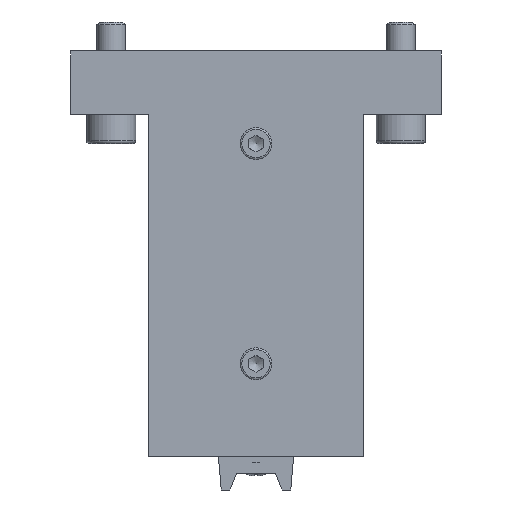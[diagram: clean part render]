
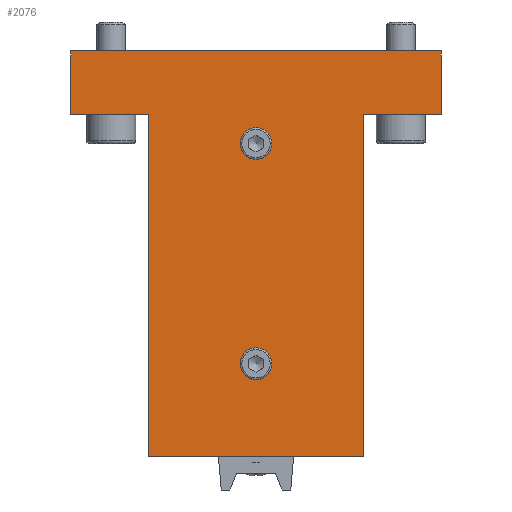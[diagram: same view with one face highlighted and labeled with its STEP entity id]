
A CAD part, left-side view. The second image highlights one B-rep face of the part: STEP entity #2076.
In plain terms, the highlighted planar face has unit normal (-1, 0, 0) as drawn and (0, -1, 0) by its records, which use the part's own axes.
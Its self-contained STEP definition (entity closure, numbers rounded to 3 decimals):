
#120=FACE_BOUND('',#406,.T.);
#121=FACE_BOUND('',#407,.T.);
#156=CIRCLE('',#2306,1.311);
#157=CIRCLE('',#2307,1.311);
#160=CIRCLE('',#2312,1.311);
#161=CIRCLE('',#2313,1.311);
#290=FACE_OUTER_BOUND('',#405,.T.);
#405=EDGE_LOOP('',(#1475,#1476,#1477,#1478,#1479,#1480,#1481,#1482));
#406=EDGE_LOOP('',(#1483,#1484));
#407=EDGE_LOOP('',(#1485,#1486));
#523=LINE('',#3170,#692);
#536=LINE('',#3247,#705);
#539=LINE('',#3252,#708);
#540=LINE('',#3255,#709);
#543=LINE('',#3260,#712);
#544=LINE('',#3262,#713);
#545=LINE('',#3265,#714);
#547=LINE('',#3268,#716);
#692=VECTOR('',#2540,10.);
#705=VECTOR('',#2623,10.);
#708=VECTOR('',#2628,10.);
#709=VECTOR('',#2631,10.);
#712=VECTOR('',#2636,10.);
#713=VECTOR('',#2639,10.);
#714=VECTOR('',#2642,10.);
#716=VECTOR('',#2646,10.);
#859=VERTEX_POINT('',#3167);
#860=VERTEX_POINT('',#3169);
#869=VERTEX_POINT('',#3193);
#870=VERTEX_POINT('',#3194);
#874=VERTEX_POINT('',#3206);
#875=VERTEX_POINT('',#3207);
#888=VERTEX_POINT('',#3244);
#889=VERTEX_POINT('',#3246);
#890=VERTEX_POINT('',#3250);
#891=VERTEX_POINT('',#3254);
#892=VERTEX_POINT('',#3258);
#893=VERTEX_POINT('',#3264);
#1076=EDGE_CURVE('',#860,#859,#523,.T.);
#1087=EDGE_CURVE('',#869,#870,#156,.T.);
#1088=EDGE_CURVE('',#870,#869,#157,.T.);
#1093=EDGE_CURVE('',#874,#875,#160,.T.);
#1094=EDGE_CURVE('',#875,#874,#161,.T.);
#1113=EDGE_CURVE('',#889,#888,#536,.T.);
#1116=EDGE_CURVE('',#888,#890,#539,.T.);
#1117=EDGE_CURVE('',#891,#860,#540,.T.);
#1120=EDGE_CURVE('',#892,#890,#543,.T.);
#1121=EDGE_CURVE('',#859,#889,#544,.T.);
#1122=EDGE_CURVE('',#893,#891,#545,.T.);
#1124=EDGE_CURVE('',#893,#892,#547,.T.);
#1475=ORIENTED_EDGE('',*,*,#1116,.T.);
#1476=ORIENTED_EDGE('',*,*,#1120,.F.);
#1477=ORIENTED_EDGE('',*,*,#1124,.F.);
#1478=ORIENTED_EDGE('',*,*,#1122,.T.);
#1479=ORIENTED_EDGE('',*,*,#1117,.T.);
#1480=ORIENTED_EDGE('',*,*,#1076,.T.);
#1481=ORIENTED_EDGE('',*,*,#1121,.T.);
#1482=ORIENTED_EDGE('',*,*,#1113,.T.);
#1483=ORIENTED_EDGE('',*,*,#1087,.T.);
#1484=ORIENTED_EDGE('',*,*,#1088,.T.);
#1485=ORIENTED_EDGE('',*,*,#1093,.T.);
#1486=ORIENTED_EDGE('',*,*,#1094,.T.);
#2000=PLANE('',#2336);
#2076=ADVANCED_FACE('',(#290,#120,#121),#2000,.T.);
#2306=AXIS2_PLACEMENT_3D('',#3195,#2565,#2566);
#2307=AXIS2_PLACEMENT_3D('',#3196,#2567,#2568);
#2312=AXIS2_PLACEMENT_3D('',#3208,#2579,#2580);
#2313=AXIS2_PLACEMENT_3D('',#3209,#2581,#2582);
#2336=AXIS2_PLACEMENT_3D('',#3267,#2644,#2645);
#2540=DIRECTION('',(0.,0.,1.));
#2565=DIRECTION('center_axis',(0.,1.,0.));
#2566=DIRECTION('ref_axis',(1.,0.,0.));
#2567=DIRECTION('center_axis',(0.,1.,0.));
#2568=DIRECTION('ref_axis',(1.,0.,0.));
#2579=DIRECTION('center_axis',(0.,1.,0.));
#2580=DIRECTION('ref_axis',(1.,0.,0.));
#2581=DIRECTION('center_axis',(0.,1.,0.));
#2582=DIRECTION('ref_axis',(1.,0.,0.));
#2623=DIRECTION('',(0.,0.,-1.));
#2628=DIRECTION('',(-1.,0.,0.));
#2631=DIRECTION('',(-1.,0.,0.));
#2636=DIRECTION('',(0.,0.,1.));
#2639=DIRECTION('',(-1.,0.,0.));
#2642=DIRECTION('',(0.,0.,1.));
#2644=DIRECTION('center_axis',(0.,-1.,0.));
#2645=DIRECTION('ref_axis',(0.,0.,-1.));
#2646=DIRECTION('',(-1.,0.,0.));
#3167=CARTESIAN_POINT('',(-13.5,0.,70.));
#3169=CARTESIAN_POINT('',(-13.5,0.,11.));
#3170=CARTESIAN_POINT('',(-13.5,0.,35.));
#3193=CARTESIAN_POINT('',(-30.69,0.,16.));
#3194=CARTESIAN_POINT('',(-33.311,0.,16.));
#3195=CARTESIAN_POINT('Origin',(-32.,0.,16.));
#3196=CARTESIAN_POINT('Origin',(-32.,0.,16.));
#3206=CARTESIAN_POINT('',(-30.69,0.,54.));
#3207=CARTESIAN_POINT('',(-33.311,0.,54.));
#3208=CARTESIAN_POINT('Origin',(-32.,0.,54.));
#3209=CARTESIAN_POINT('Origin',(-32.,0.,54.));
#3244=CARTESIAN_POINT('',(-50.5,0.,11.));
#3246=CARTESIAN_POINT('',(-50.5,0.,70.));
#3247=CARTESIAN_POINT('',(-50.5,0.,5.5));
#3250=CARTESIAN_POINT('',(-64.,0.,11.));
#3252=CARTESIAN_POINT('',(-32.,0.,11.));
#3254=CARTESIAN_POINT('',(0.,0.,11.));
#3255=CARTESIAN_POINT('',(-6.75,0.,11.));
#3258=CARTESIAN_POINT('',(-64.,0.,0.));
#3260=CARTESIAN_POINT('',(-64.,0.,0.));
#3262=CARTESIAN_POINT('',(0.,0.,70.));
#3264=CARTESIAN_POINT('',(0.,0.,0.));
#3265=CARTESIAN_POINT('',(0.,0.,0.));
#3267=CARTESIAN_POINT('Origin',(0.,0.,0.));
#3268=CARTESIAN_POINT('',(0.,0.,0.));
